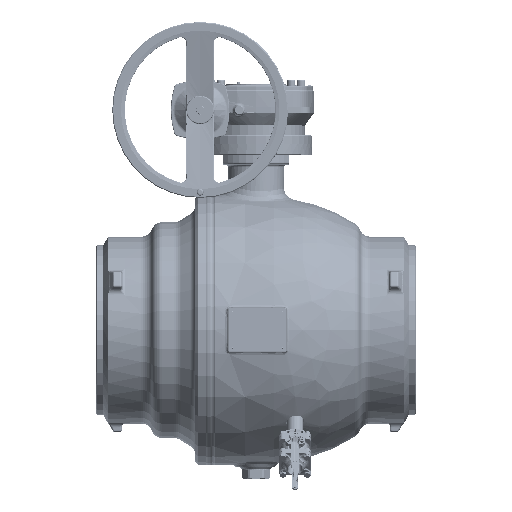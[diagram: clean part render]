
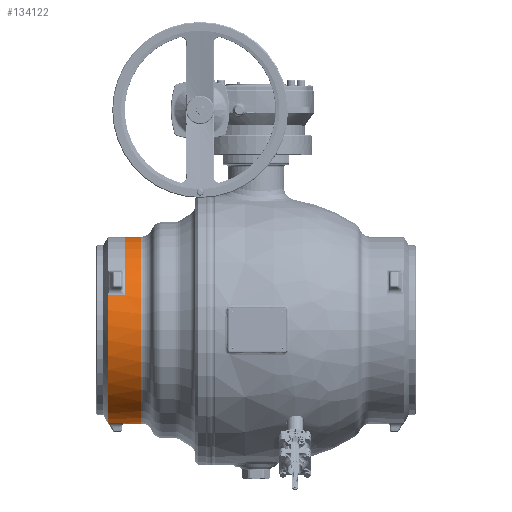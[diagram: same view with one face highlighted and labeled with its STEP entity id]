
A CAD part, top view. The second image highlights one B-rep face of the part: STEP entity #134122.
In plain terms, the highlighted cylindrical face has radius 335 mm (diameter 670 mm), a partial arc.
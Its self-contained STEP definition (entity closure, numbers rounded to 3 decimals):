
#27341=CARTESIAN_POINT('',(-529.179,0.,0.));
#27342=DIRECTION('',(-1.,0.,0.));
#27343=DIRECTION('',(0.,-0.144,-0.99));
#27344=AXIS2_PLACEMENT_3D('',#27341,#27342,#27343);
#27346=DIRECTION('',(1.,0.,0.));
#27347=VECTOR('',#27346,58.179);
#27348=CARTESIAN_POINT('',(-529.179,-311.232,
123.935));
#27349=LINE('',#27348,#27347);
#27350=CARTESIAN_POINT('',(-471.,0.,0.));
#27351=DIRECTION('',(-1.,0.,0.));
#27352=DIRECTION('',(0.,-0.76,0.65));
#27353=AXIS2_PLACEMENT_3D('',#27350,#27351,#27352);
#27355=DIRECTION('',(-1.,0.,0.));
#27356=VECTOR('',#27355,60.56);
#27357=CARTESIAN_POINT('',(-410.44,0.,335.));
#27358=LINE('',#27357,#27356);
#27359=CARTESIAN_POINT('',(-410.44,0.,0.));
#27360=DIRECTION('',(1.,0.,0.));
#27361=DIRECTION('',(0.,0.,1.));
#27362=AXIS2_PLACEMENT_3D('',#27359,#27360,#27361);
#27364=DIRECTION('',(-1.,0.,0.));
#27365=VECTOR('',#27364,60.56);
#27366=CARTESIAN_POINT('',(-410.44,0.,-335.));
#27367=LINE('',#27366,#27365);
#27368=DIRECTION('',(1.,0.,0.));
#27369=VECTOR('',#27368,58.179);
#27370=CARTESIAN_POINT('',(-529.179,-48.285,
-331.502));
#27371=LINE('',#27370,#27369);
#27690=CARTESIAN_POINT('',(-471.,-48.285,-331.502));
#27692=CARTESIAN_POINT('',(-471.,0.,0.));
#27693=DIRECTION('',(1.,0.,0.));
#27694=DIRECTION('',(0.,-0.144,-0.99));
#27695=AXIS2_PLACEMENT_3D('',#27692,#27693,#27694);
#28841=CARTESIAN_POINT('',(-471.,0.,0.));
#28842=DIRECTION('',(1.,0.,0.));
#28843=DIRECTION('',(0.,-0.76,0.65));
#28844=AXIS2_PLACEMENT_3D('',#28841,#28842,#28843);
#28974=CARTESIAN_POINT('',(-471.,-311.232,123.935));
#87916=CARTESIAN_POINT('',(-529.179,-48.285,
-331.502));
#87917=CARTESIAN_POINT('',(-529.179,-311.232,
123.935));
#87918=VERTEX_POINT('',#87916);
#87919=VERTEX_POINT('',#87917);
#87922=CARTESIAN_POINT('',(-410.44,0.,-335.));
#87923=CARTESIAN_POINT('',(-410.44,0.,335.));
#87924=VERTEX_POINT('',#87922);
#87925=VERTEX_POINT('',#87923);
#87942=CARTESIAN_POINT('',(-471.,0.,-335.));
#87943=VERTEX_POINT('',#87942);
#87944=CARTESIAN_POINT('',(-471.,0.,335.));
#87945=VERTEX_POINT('',#87944);
#87946=CARTESIAN_POINT('',(-471.,-254.721,217.583));
#87947=VERTEX_POINT('',#87946);
#88016=VERTEX_POINT('',#27690);
#88080=VERTEX_POINT('',#28974);
#134098=CARTESIAN_POINT('',(-119.45,0.,0.));
#134099=DIRECTION('',(-1.,0.,0.));
#134100=DIRECTION('',(0.,0.,1.));
#134101=AXIS2_PLACEMENT_3D('',#134098,#134099,#134100);
#134102=CYLINDRICAL_SURFACE('',#134101,335.);
#134104=ORIENTED_EDGE('',*,*,#134103,.T.);
#134106=ORIENTED_EDGE('',*,*,#134105,.T.);
#134108=ORIENTED_EDGE('',*,*,#134107,.F.);
#134110=ORIENTED_EDGE('',*,*,#134109,.T.);
#134112=ORIENTED_EDGE('',*,*,#134111,.F.);
#134113=ORIENTED_EDGE('',*,*,#134088,.T.);
#134115=ORIENTED_EDGE('',*,*,#134114,.T.);
#134117=ORIENTED_EDGE('',*,*,#134116,.F.);
#134119=ORIENTED_EDGE('',*,*,#134118,.F.);
#134120=EDGE_LOOP('',(#134104,#134106,#134108,#134110,#134112,#134113,#134115,
#134117,#134119));
#134121=FACE_OUTER_BOUND('',#134120,.F.);
#134122=ADVANCED_FACE('',(#134121),#134102,.T.);
#27345=CIRCLE('',#27344,335.);
#27354=CIRCLE('',#27353,335.);
#27363=CIRCLE('',#27362,335.);
#27696=CIRCLE('',#27695,335.);
#28845=CIRCLE('',#28844,335.);
#134088=EDGE_CURVE('',#87925,#87924,#27363,.T.);
#134103=EDGE_CURVE('',#87918,#87919,#27345,.T.);
#134105=EDGE_CURVE('',#87919,#88080,#27349,.T.);
#134107=EDGE_CURVE('',#87947,#88080,#28845,.T.);
#134109=EDGE_CURVE('',#87947,#87945,#27354,.T.);
#134111=EDGE_CURVE('',#87925,#87945,#27358,.T.);
#134114=EDGE_CURVE('',#87924,#87943,#27367,.T.);
#134116=EDGE_CURVE('',#88016,#87943,#27696,.T.);
#134118=EDGE_CURVE('',#87918,#88016,#27371,.T.);
